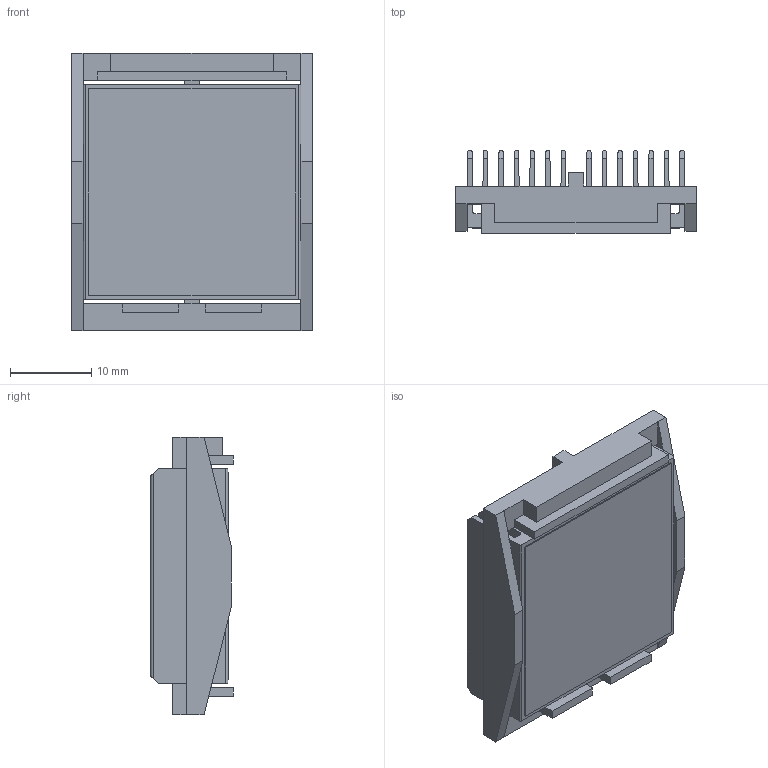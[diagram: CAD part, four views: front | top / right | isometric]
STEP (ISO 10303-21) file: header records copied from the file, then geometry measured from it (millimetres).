
FILE_DESCRIPTION (( 'STEP AP214' ), '1' );
FILE_NAME ('INL27001-10-1.7O.STEP', '2023-02-21T21:34:21', ( '' ), ( '' ), 'SwSTEP 2.0', 'SolidWorks 2020', '' );
FILE_SCHEMA (( 'AUTOMOTIVE_DESIGN' ));
Length unit declared in the file: millimetre
Products named in the file (1): INL27001-10-1.7O
Bounding box: 29.6 x 10.2 x 34.1 mm (x, y, z)
Volume: 4247.1 mm3; surface area: 10488.7 mm2
Topology: 3 solids, 3 shells, 168 faces, 488 edges, 324 vertices
Faces by surface type: plane 126, cylinder 42
Entity records: 7380 total; most frequent: CARTESIAN_POINT 1065, ORIENTED_EDGE 976, DIRECTION 854, EDGE_CURVE 488, VECTOR 404, LINE 404, VERTEX_POINT 324, AXIS2_PLACEMENT_3D 225
